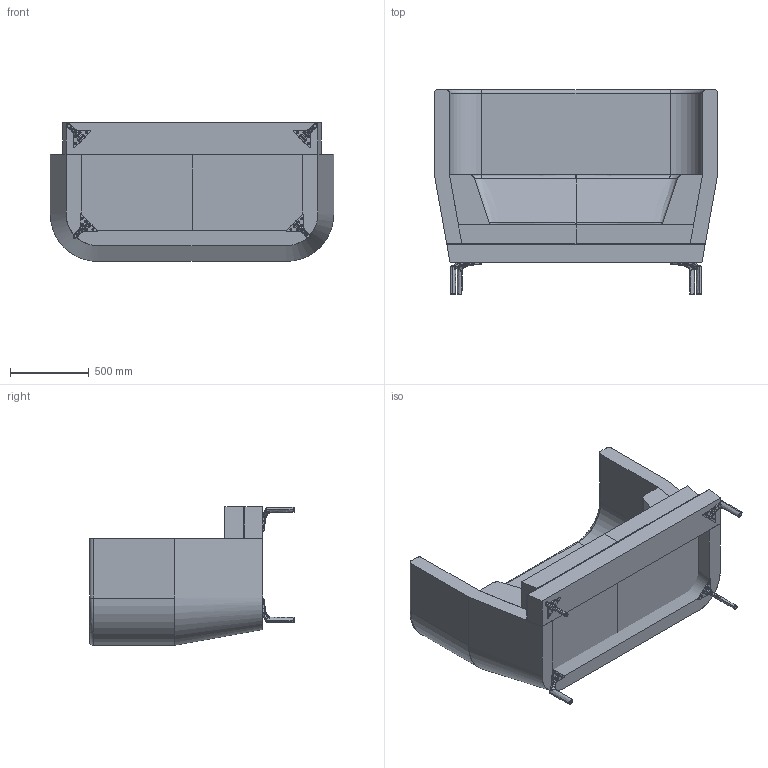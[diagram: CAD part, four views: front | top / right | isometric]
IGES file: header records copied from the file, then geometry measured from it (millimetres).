
Start section: SolidWorks IGES file using analytic representation for surfaces
Global section: file name: S:\3D CAD BLOCKS\ENTENTE\HIGH BACK\ENT1 SOFA\ENT- HB - 2S .IGS; native system: SolidWorks 2012; preprocessor: SolidWorks 2012; author: adam; date: 131004.090224; units: millimetre
Bounding box: 1800 x 1301.5 x 880 mm (x, y, z)
Surface area: 13004541.8 mm2 (no closed solid volume)
Topology: 0 solids, 0 shells, 584 faces, 7368 edges, 7364 vertices
Faces by surface type: bspline 334, revolution 250
